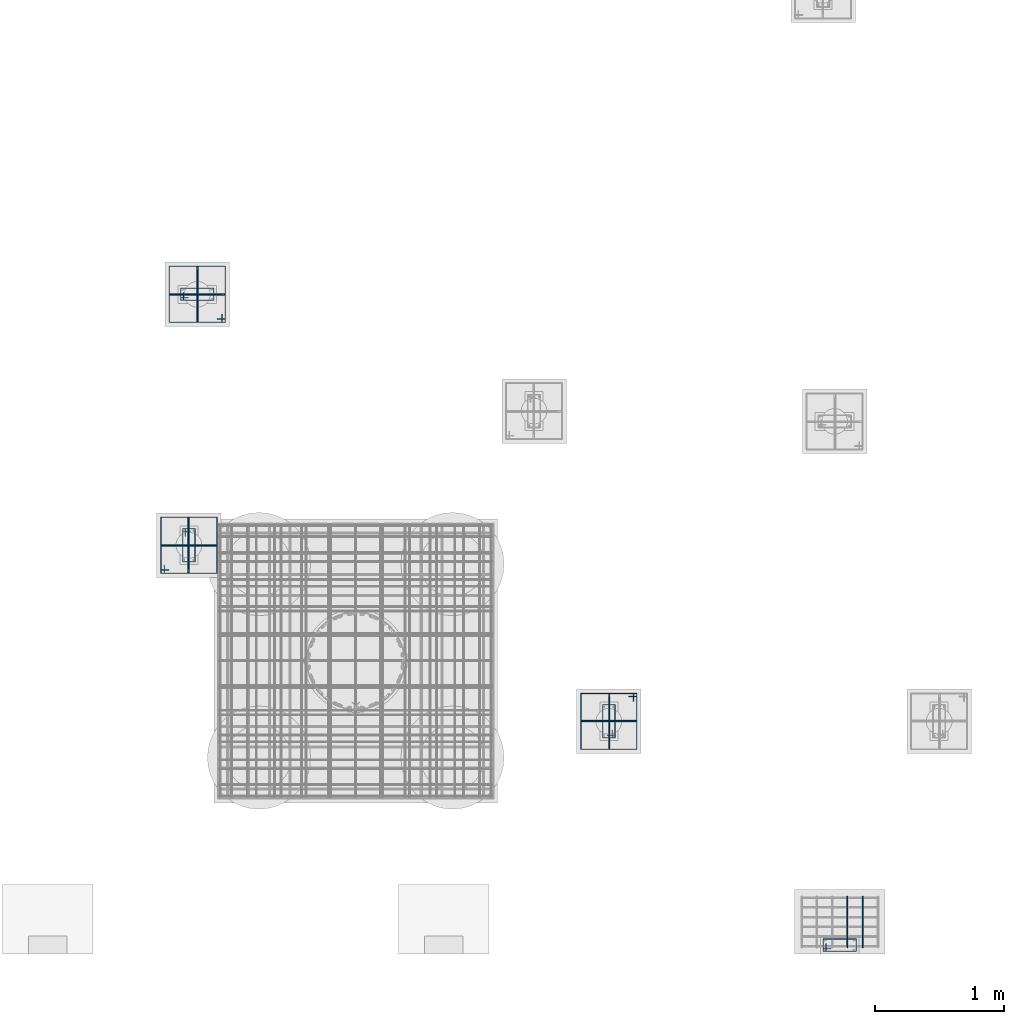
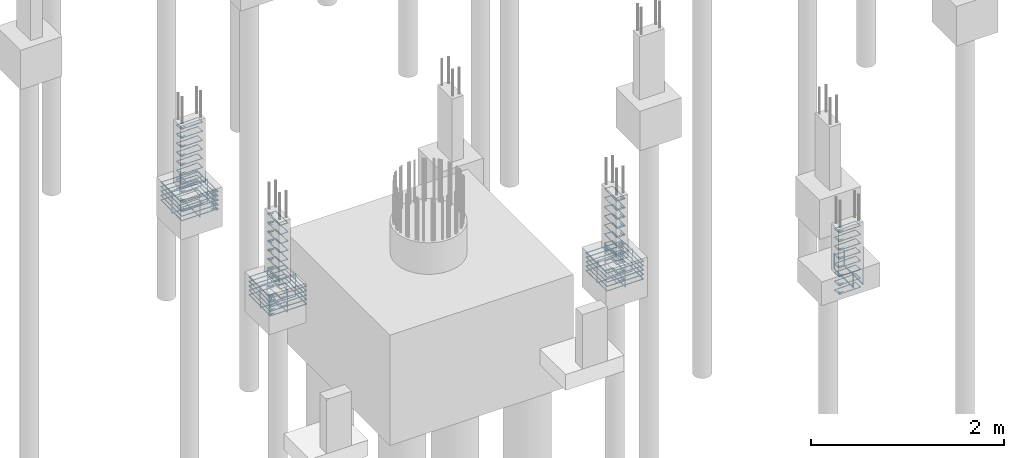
# One storey, part 77 of 119: 61 reinforcing bars.
"""IFC4 building model written with IfcOpenShell, lengths in centimetres."""

from ifc_helpers import new_model, entity, si_unit, derived_unit, frame, origin_with_axes, place, context, project, spatial, source, transform, mapped, element, save


model = new_model("IFC4")

# Units and contexts
model_context = context("Model", 3, precision=1e-05, world=origin_with_axes(), identifier="Body")
ifc_project = project(units=[si_unit("LENGTHUNIT", "METRE", prefix="CENTI"), si_unit("VOLUMEUNIT", "CUBIC_METRE"), si_unit("AREAUNIT", "SQUARE_METRE"), si_unit("POWERUNIT", "WATT"), si_unit("LUMINOUSFLUXUNIT", "LUMEN"), si_unit("ELECTRICCURRENTUNIT", "AMPERE"), si_unit("PRESSUREUNIT", "PASCAL", prefix="KILO"), si_unit("MASSUNIT", "GRAM", prefix="KILO"), si_unit("PLANEANGLEUNIT", "RADIAN"), derived_unit("VOLUMETRICFLOWRATEUNIT", [(si_unit("LENGTHUNIT", "METRE"), 3), (si_unit("TIMEUNIT", "SECOND"), -1)])], contexts=[model_context])

# Site, building, storey
site_placement = place(None, frame((-4000.0, 0.0, 0.0), z_axis=(0.0, 0.0, 1.0), x_axis=(1.0, 0.0, 0.0)))
site = spatial("IfcSite", under=ifc_project, at=site_placement, Name="PADRÃO")
building_placement = place(site_placement, frame((0.0, 0.0, -14.0)))
building = spatial("IfcBuilding", under=site, at=building_placement, Name="CRECHE PRÉ-ESCOLA TIPO 2")
storey_placement = place(building_placement, origin_with_axes())
storey = spatial("IfcBuildingStorey", under=building, at=storey_placement, Name="FUNDAÇÃO", CompositionType="ELEMENT", Elevation=-14.0)

# Reinforcing bars
shared_shape_1 = source(origin_with_axes(), model_context, "Body", "AdvancedSweptSolid", [
    entity("IfcSweptDiskSolid", entity("IfcCompositeCurve", [entity("IfcCompositeCurveSegment", "CONTINUOUS", True, entity("IfcPolyline", [entity("IfcCartesianPoint", [4.25, 21.75, 0.0]), entity("IfcCartesianPoint", [4.25, 27.75, 0.0])])), entity("IfcCompositeCurveSegment", "CONTINUOUS", True, entity("IfcPolyline", [entity("IfcCartesianPoint", [4.25, 27.75, 0.0]), entity("IfcCartesianPoint", [2.25, 27.75, 0.0])])), entity("IfcCompositeCurveSegment", "CONTINUOUS", True, entity("IfcPolyline", [entity("IfcCartesianPoint", [2.25, 27.75, 0.0]), entity("IfcCartesianPoint", [2.25, 2.25, 0.0])])), entity("IfcCompositeCurveSegment", "CONTINUOUS", True, entity("IfcPolyline", [entity("IfcCartesianPoint", [2.25, 2.25, 0.0]), entity("IfcCartesianPoint", [11.75, 2.25, 0.0])])), entity("IfcCompositeCurveSegment", "CONTINUOUS", True, entity("IfcPolyline", [entity("IfcCartesianPoint", [11.75, 2.25, 0.0]), entity("IfcCartesianPoint", [11.75, 27.75, -0.5])])), entity("IfcCompositeCurveSegment", "CONTINUOUS", True, entity("IfcPolyline", [entity("IfcCartesianPoint", [11.75, 27.75, -0.5]), entity("IfcCartesianPoint", [2.25, 27.75, -0.5])])), entity("IfcCompositeCurveSegment", "CONTINUOUS", True, entity("IfcPolyline", [entity("IfcCartesianPoint", [2.25, 27.75, -0.5]), entity("IfcCartesianPoint", [2.25, 25.75, -0.5])])), entity("IfcCompositeCurveSegment", "CONTINUOUS", True, entity("IfcPolyline", [entity("IfcCartesianPoint", [2.25, 25.75, -0.5]), entity("IfcCartesianPoint", [8.25, 25.75, -0.5])]))], False), 0.25),
])
for number, where, z_axis, x_axis, name in (
    (1, (2775.5, 2.0, -61.1875), (0.0, 0.0, 1.0), (0.0, 1.0, 0.0), "P164 - Estribo"),
    (2, (2775.5, 2.0, -50.0625), (0.0, 0.0, 1.0), (0.0, 1.0, 0.0), "P164 - Estribo"),
    (3, (2775.5, 2.0, -38.9375), (0.0, 0.0, 1.0), (0.0, 1.0, 0.0), "P164 - Estribo"),
    (4, (2775.5, 2.0, -27.8125), (0.0, 0.0, 1.0), (0.0, 1.0, 0.0), "P164 - Estribo"),
    (5, (2775.5, 2.0, -16.6875), (0.0, 0.0, 1.0), (0.0, 1.0, 0.0), "P164 - Estribo"),
    (6, (2775.5, 2.0, -5.5625), (0.0, 0.0, 1.0), (0.0, 1.0, 0.0), "P164 - Estribo"),
    (7, (2775.5, 2.0, -83.4375), (0.0, 0.0, 1.0), (0.0, 1.0, 0.0), "P164 - Estribo"),
    (8, (2775.5, 2.0, -72.3125), (0.0, 0.0, 1.0), (0.0, 1.0, 0.0), "P164 - Estribo"),
):
    element("IfcReinforcingBar", number, at=place(storey_placement, frame(where, z_axis=z_axis, x_axis=x_axis)), inside=storey, Name=name, BarLength=0.0, CrossSectionArea=1.9634954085e-05, NominalDiameter=0.5, PredefinedType="MAIN", context=model_context, shape_type="MappedRepresentation", body=[
        mapped(shared_shape_1, transform((0.0, 0.0, 0.0), scale=1.0)),
    ])
shared_shape_2 = source(origin_with_axes(), model_context, "Body", "AdvancedSweptSolid", [
    entity("IfcSweptDiskSolid", entity("IfcCompositeCurve", [entity("IfcCompositeCurveSegment", "CONTINUOUS", True, entity("IfcPolyline", [entity("IfcCartesianPoint", [0.0, 0.0, 19.6]), entity("IfcCartesianPoint", [0.0, 0.0, 0.0])])), entity("IfcCompositeCurveSegment", "CONTINUOUS", True, entity("IfcPolyline", [entity("IfcCartesianPoint", [0.0, 0.0, 0.0]), entity("IfcCartesianPoint", [39.2, 0.0, 0.0])])), entity("IfcCompositeCurveSegment", "CONTINUOUS", True, entity("IfcPolyline", [entity("IfcCartesianPoint", [39.2, 0.0, 0.0]), entity("IfcCartesianPoint", [39.2, 0.0, 19.6])]))], False), 0.4),
])
for number, where, z_axis, x_axis, name in (
    (9, (2766.42, 7.4, -83.6), (0.0, 0.0, 1.0), (0.0, 1.0, 0.0), "P164 - Sapatas (inferior)"),
    (10, (2778.26, 7.4, -83.6), (0.0, 0.0, 1.0), (0.0, 1.0, 0.0), "P164 - Sapatas (inferior)"),
):
    element("IfcReinforcingBar", number, at=place(storey_placement, frame(where, z_axis=z_axis, x_axis=x_axis)), inside=storey, Name=name, BarLength=0.0, CrossSectionArea=5.0265482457e-05, NominalDiameter=0.8, PredefinedType="MAIN", context=model_context, shape_type="MappedRepresentation", body=[
        mapped(shared_shape_2, transform((0.0, 0.0, 0.0), scale=1.0)),
    ])
shared_shape_3 = source(origin_with_axes(), model_context, "Body", "AdvancedSweptSolid", [
    entity("IfcSweptDiskSolid", entity("IfcCompositeCurve", [entity("IfcCompositeCurveSegment", "CONTINUOUS", True, entity("IfcPolyline", [entity("IfcCartesianPoint", [4.25, 21.75, 0.0]), entity("IfcCartesianPoint", [4.25, 27.75, 0.0])])), entity("IfcCompositeCurveSegment", "CONTINUOUS", True, entity("IfcPolyline", [entity("IfcCartesianPoint", [4.25, 27.75, 0.0]), entity("IfcCartesianPoint", [2.25, 27.75, 0.0])])), entity("IfcCompositeCurveSegment", "CONTINUOUS", True, entity("IfcPolyline", [entity("IfcCartesianPoint", [2.25, 27.75, 0.0]), entity("IfcCartesianPoint", [2.25, 2.25, 0.0])])), entity("IfcCompositeCurveSegment", "CONTINUOUS", True, entity("IfcPolyline", [entity("IfcCartesianPoint", [2.25, 2.25, 0.0]), entity("IfcCartesianPoint", [11.75, 2.25, 0.0])])), entity("IfcCompositeCurveSegment", "CONTINUOUS", True, entity("IfcPolyline", [entity("IfcCartesianPoint", [11.75, 2.25, 0.0]), entity("IfcCartesianPoint", [11.75, 27.75, -0.5])])), entity("IfcCompositeCurveSegment", "CONTINUOUS", True, entity("IfcPolyline", [entity("IfcCartesianPoint", [11.75, 27.75, -0.5]), entity("IfcCartesianPoint", [2.25, 27.75, -0.5])])), entity("IfcCompositeCurveSegment", "CONTINUOUS", True, entity("IfcPolyline", [entity("IfcCartesianPoint", [2.25, 27.75, -0.5]), entity("IfcCartesianPoint", [2.25, 25.75, -0.5])])), entity("IfcCompositeCurveSegment", "CONTINUOUS", True, entity("IfcPolyline", [entity("IfcCartesianPoint", [2.25, 25.75, -0.5]), entity("IfcCartesianPoint", [8.25, 25.75, -0.5])]))], False), 0.25),
])
for number, where, z_axis, x_axis, name in (
    (11, (2248.98, 304.02, -17.25), (0.0, 0.0, 1.0), (1.0, 0.0, 0.0), "P150 - Estribo"),
    (12, (2248.98, 304.02, -74.75), (0.0, 0.0, 1.0), (1.0, 0.0, 0.0), "P150 - Estribo"),
    (13, (2248.98, 304.02, -109.25), (0.0, 0.0, 1.0), (1.0, 0.0, 0.0), "P150 - Estribo"),
    (14, (2248.98, 304.02, -86.25), (0.0, 0.0, 1.0), (1.0, 0.0, 0.0), "P150 - Estribo"),
    (15, (2248.98, 304.02, -5.75), (0.0, 0.0, 1.0), (1.0, 0.0, 0.0), "P150 - Estribo"),
    (16, (2248.98, 304.02, -63.25), (0.0, 0.0, 1.0), (1.0, 0.0, 0.0), "P150 - Estribo"),
    (17, (2248.98, 304.02, -51.75), (0.0, 0.0, 1.0), (1.0, 0.0, 0.0), "P150 - Estribo"),
    (18, (2248.98, 304.02, -40.25), (0.0, 0.0, 1.0), (1.0, 0.0, 0.0), "P150 - Estribo"),
    (19, (2248.98, 304.02, -28.75), (0.0, 0.0, 1.0), (1.0, 0.0, 0.0), "P150 - Estribo"),
    (20, (2248.98, 304.02, -97.75), (0.0, 0.0, 1.0), (1.0, 0.0, 0.0), "P150 - Estribo"),
):
    element("IfcReinforcingBar", number, at=place(storey_placement, frame(where, z_axis=z_axis, x_axis=x_axis)), inside=storey, Name=name, BarLength=0.0, CrossSectionArea=1.9634954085e-05, NominalDiameter=0.5, PredefinedType="MAIN", context=model_context, shape_type="MappedRepresentation", body=[
        mapped(shared_shape_3, transform((0.0, 0.0, 0.0), scale=1.0)),
    ])
shared_shape_4 = source(origin_with_axes(), model_context, "Body", "AdvancedSweptSolid", [
    entity("IfcSweptDiskSolid", entity("IfcCompositeCurve", [entity("IfcCompositeCurveSegment", "CONTINUOUS", True, entity("IfcPolyline", [entity("IfcCartesianPoint", [2240.555, 299.855, 0.0]), entity("IfcCartesianPoint", [2234.295, 299.855, 0.0])])), entity("IfcCompositeCurveSegment", "CONTINUOUS", True, entity("IfcPolyline", [entity("IfcCartesianPoint", [2234.295, 299.855, 0.0]), entity("IfcCartesianPoint", [2234.295, 297.335, 0.0])])), entity("IfcCompositeCurveSegment", "CONTINUOUS", True, entity("IfcPolyline", [entity("IfcCartesianPoint", [2234.295, 297.335, 0.0]), entity("IfcCartesianPoint", [2277.665, 297.335, 0.0])])), entity("IfcCompositeCurveSegment", "CONTINUOUS", True, entity("IfcPolyline", [entity("IfcCartesianPoint", [2277.665, 297.335, 0.0]), entity("IfcCartesianPoint", [2277.665, 340.705, 0.63])])), entity("IfcCompositeCurveSegment", "CONTINUOUS", True, entity("IfcPolyline", [entity("IfcCartesianPoint", [2277.665, 340.705, 0.63]), entity("IfcCartesianPoint", [2234.295, 340.705, 0.63])])), entity("IfcCompositeCurveSegment", "CONTINUOUS", True, entity("IfcPolyline", [entity("IfcCartesianPoint", [2234.295, 340.705, 0.63]), entity("IfcCartesianPoint", [2234.295, 297.335, 0.63])])), entity("IfcCompositeCurveSegment", "CONTINUOUS", True, entity("IfcPolyline", [entity("IfcCartesianPoint", [2234.295, 297.335, 0.63]), entity("IfcCartesianPoint", [2236.815, 297.335, 0.63])])), entity("IfcCompositeCurveSegment", "CONTINUOUS", True, entity("IfcPolyline", [entity("IfcCartesianPoint", [2236.815, 297.335, 0.63]), entity("IfcCartesianPoint", [2236.815, 303.595, 0.63])]))], False), 0.315),
])
for number, where, z_axis, x_axis, name in (
    (21, (0.0, 0.0, -92.225), (0.0, 0.0, 1.0), (1.0, 0.0, 0.0), "P150 - Blocos (estribos)"),
    (22, (0.0, 0.0, -86.575), (0.0, 0.0, 1.0), (1.0, 0.0, 0.0), "P150 - Blocos (estribos)"),
    (23, (0.0, 0.0, -109.175), (0.0, 0.0, 1.0), (1.0, 0.0, 0.0), "P150 - Blocos (estribos)"),
    (24, (0.0, 0.0, -103.525), (0.0, 0.0, 1.0), (1.0, 0.0, 0.0), "P150 - Blocos (estribos)"),
    (25, (0.0, 0.0, -97.875), (0.0, 0.0, 1.0), (1.0, 0.0, 0.0), "P150 - Blocos (estribos)"),
):
    element("IfcReinforcingBar", number, at=place(storey_placement, frame(where, z_axis=z_axis, x_axis=x_axis)), inside=storey, Name=name, BarLength=0.0, CrossSectionArea=3.1172453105e-05, NominalDiameter=0.63, PredefinedType="MAIN", context=model_context, shape_type="MappedRepresentation", body=[
        mapped(shared_shape_4, transform((0.0, 0.0, 0.0), scale=1.0)),
    ])
shared_shape_5 = source(origin_with_axes(), model_context, "Body", "AdvancedSweptSolid", [
    entity("IfcSweptDiskSolid", entity("IfcCompositeCurve", [entity("IfcCompositeCurveSegment", "CONTINUOUS", True, entity("IfcPolyline", [entity("IfcCartesianPoint", [-15.12, -12.0, 0.0]), entity("IfcCartesianPoint", [-21.12, -12.0, 0.0])])), entity("IfcCompositeCurveSegment", "CONTINUOUS", True, entity("IfcPolyline", [entity("IfcCartesianPoint", [-21.12, -12.0, 0.0]), entity("IfcCartesianPoint", [-21.12, -14.0, 0.0])])), entity("IfcCompositeCurveSegment", "CONTINUOUS", True, entity("IfcPolyline", [entity("IfcCartesianPoint", [-21.12, -14.0, 0.0]), entity("IfcCartesianPoint", [21.12, -14.0, 0.0])])), entity("IfcCompositeCurveSegment", "CONTINUOUS", True, entity("IfcPolyline", [entity("IfcCartesianPoint", [21.12, -14.0, 0.0]), entity("IfcCartesianPoint", [21.12, 14.0, 0.5])])), entity("IfcCompositeCurveSegment", "CONTINUOUS", True, entity("IfcPolyline", [entity("IfcCartesianPoint", [21.12, 14.0, 0.5]), entity("IfcCartesianPoint", [-21.12, 14.0, 0.5])])), entity("IfcCompositeCurveSegment", "CONTINUOUS", True, entity("IfcPolyline", [entity("IfcCartesianPoint", [-21.12, 14.0, 0.5]), entity("IfcCartesianPoint", [-21.12, -14.0, 0.5])])), entity("IfcCompositeCurveSegment", "CONTINUOUS", True, entity("IfcPolyline", [entity("IfcCartesianPoint", [-21.12, -14.0, 0.5]), entity("IfcCartesianPoint", [-19.12, -14.0, 0.5])])), entity("IfcCompositeCurveSegment", "CONTINUOUS", True, entity("IfcPolyline", [entity("IfcCartesianPoint", [-19.12, -14.0, 0.5]), entity("IfcCartesianPoint", [-19.12, -8.0, 0.5])]))], False), 0.25),
])
reinforcing_bar_1_placement = place(storey_placement, frame((2255.98, 319.02, -97.75), z_axis=(-1.0, 0.0, 0.0), x_axis=(0.0, 1.0, 0.0)))
element("IfcReinforcingBar", 26, at=reinforcing_bar_1_placement, inside=storey, Name="P150 - Blocos (estribos)", BarLength=0.0, CrossSectionArea=1.9634954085e-05, NominalDiameter=0.5, PredefinedType="MAIN", context=model_context, shape_type="MappedRepresentation", body=[
    mapped(shared_shape_5, transform((0.0, 0.0, 0.0), scale=1.0)),
])
shared_shape_6 = source(origin_with_axes(), model_context, "Body", "AdvancedSweptSolid", [
    entity("IfcSweptDiskSolid", entity("IfcCompositeCurve", [entity("IfcCompositeCurveSegment", "CONTINUOUS", True, entity("IfcPolyline", [entity("IfcCartesianPoint", [-15.12, -12.0, 0.0]), entity("IfcCartesianPoint", [-21.12, -12.0, 0.0])])), entity("IfcCompositeCurveSegment", "CONTINUOUS", True, entity("IfcPolyline", [entity("IfcCartesianPoint", [-21.12, -12.0, 0.0]), entity("IfcCartesianPoint", [-21.12, -14.0, 0.0])])), entity("IfcCompositeCurveSegment", "CONTINUOUS", True, entity("IfcPolyline", [entity("IfcCartesianPoint", [-21.12, -14.0, 0.0]), entity("IfcCartesianPoint", [21.12, -14.0, 0.0])])), entity("IfcCompositeCurveSegment", "CONTINUOUS", True, entity("IfcPolyline", [entity("IfcCartesianPoint", [21.12, -14.0, 0.0]), entity("IfcCartesianPoint", [21.12, 14.0, 0.5])])), entity("IfcCompositeCurveSegment", "CONTINUOUS", True, entity("IfcPolyline", [entity("IfcCartesianPoint", [21.12, 14.0, 0.5]), entity("IfcCartesianPoint", [-21.12, 14.0, 0.5])])), entity("IfcCompositeCurveSegment", "CONTINUOUS", True, entity("IfcPolyline", [entity("IfcCartesianPoint", [-21.12, 14.0, 0.5]), entity("IfcCartesianPoint", [-21.12, -14.0, 0.5])])), entity("IfcCompositeCurveSegment", "CONTINUOUS", True, entity("IfcPolyline", [entity("IfcCartesianPoint", [-21.12, -14.0, 0.5]), entity("IfcCartesianPoint", [-19.12, -14.0, 0.5])])), entity("IfcCompositeCurveSegment", "CONTINUOUS", True, entity("IfcPolyline", [entity("IfcCartesianPoint", [-19.12, -14.0, 0.5]), entity("IfcCartesianPoint", [-19.12, -8.0, 0.5])]))], False), 0.25),
])
reinforcing_bar_2_placement = place(storey_placement, frame((2255.98, 319.02, -97.75), z_axis=(0.0, -1.0, 0.0), x_axis=(-1.0, 0.0, 0.0)))
element("IfcReinforcingBar", 27, at=reinforcing_bar_2_placement, inside=storey, Name="P150 - Blocos (estribos)", BarLength=0.0, CrossSectionArea=1.9634954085e-05, NominalDiameter=0.5, PredefinedType="MAIN", context=model_context, shape_type="MappedRepresentation", body=[
    mapped(shared_shape_6, transform((0.0, 0.0, 0.0), scale=1.0)),
])
shared_shape_7 = source(origin_with_axes(), model_context, "Body", "AdvancedSweptSolid", [
    entity("IfcSweptDiskSolid", entity("IfcCompositeCurve", [entity("IfcCompositeCurveSegment", "CONTINUOUS", True, entity("IfcPolyline", [entity("IfcCartesianPoint", [4.25, 21.75, 0.0]), entity("IfcCartesianPoint", [4.25, 27.75, 0.0])])), entity("IfcCompositeCurveSegment", "CONTINUOUS", True, entity("IfcPolyline", [entity("IfcCartesianPoint", [4.25, 27.75, 0.0]), entity("IfcCartesianPoint", [2.25, 27.75, 0.0])])), entity("IfcCompositeCurveSegment", "CONTINUOUS", True, entity("IfcPolyline", [entity("IfcCartesianPoint", [2.25, 27.75, 0.0]), entity("IfcCartesianPoint", [2.25, 2.25, 0.0])])), entity("IfcCompositeCurveSegment", "CONTINUOUS", True, entity("IfcPolyline", [entity("IfcCartesianPoint", [2.25, 2.25, 0.0]), entity("IfcCartesianPoint", [11.75, 2.25, 0.0])])), entity("IfcCompositeCurveSegment", "CONTINUOUS", True, entity("IfcPolyline", [entity("IfcCartesianPoint", [11.75, 2.25, 0.0]), entity("IfcCartesianPoint", [11.75, 27.75, -0.5])])), entity("IfcCompositeCurveSegment", "CONTINUOUS", True, entity("IfcPolyline", [entity("IfcCartesianPoint", [11.75, 27.75, -0.5]), entity("IfcCartesianPoint", [2.25, 27.75, -0.5])])), entity("IfcCompositeCurveSegment", "CONTINUOUS", True, entity("IfcPolyline", [entity("IfcCartesianPoint", [2.25, 27.75, -0.5]), entity("IfcCartesianPoint", [2.25, 25.75, -0.5])])), entity("IfcCompositeCurveSegment", "CONTINUOUS", True, entity("IfcPolyline", [entity("IfcCartesianPoint", [2.25, 25.75, -0.5]), entity("IfcCartesianPoint", [8.25, 25.75, -0.5])]))], False), 0.25),
])
for number, where, z_axis, x_axis, name in (
    (28, (2277.48, 506.52, -63.25), (0.0, 0.0, 1.0), (0.0, 1.0, 0.0), "P139 - Estribo"),
    (29, (2277.48, 506.52, -74.75), (0.0, 0.0, 1.0), (0.0, 1.0, 0.0), "P139 - Estribo"),
    (30, (2277.48, 506.52, -86.25), (0.0, 0.0, 1.0), (0.0, 1.0, 0.0), "P139 - Estribo"),
    (31, (2277.48, 506.52, -28.75), (0.0, 0.0, 1.0), (0.0, 1.0, 0.0), "P139 - Estribo"),
    (32, (2277.48, 506.52, -40.25), (0.0, 0.0, 1.0), (0.0, 1.0, 0.0), "P139 - Estribo"),
    (33, (2277.48, 506.52, -17.25), (0.0, 0.0, 1.0), (0.0, 1.0, 0.0), "P139 - Estribo"),
    (34, (2277.48, 506.52, -97.75), (0.0, 0.0, 1.0), (0.0, 1.0, 0.0), "P139 - Estribo"),
    (35, (2277.48, 506.52, -109.25), (0.0, 0.0, 1.0), (0.0, 1.0, 0.0), "P139 - Estribo"),
    (36, (2277.48, 506.52, -51.75), (0.0, 0.0, 1.0), (0.0, 1.0, 0.0), "P139 - Estribo"),
    (37, (2277.48, 506.52, -5.75), (0.0, 0.0, 1.0), (0.0, 1.0, 0.0), "P139 - Estribo"),
):
    element("IfcReinforcingBar", number, at=place(storey_placement, frame(where, z_axis=z_axis, x_axis=x_axis)), inside=storey, Name=name, BarLength=0.0, CrossSectionArea=1.9634954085e-05, NominalDiameter=0.5, PredefinedType="MAIN", context=model_context, shape_type="MappedRepresentation", body=[
        mapped(shared_shape_7, transform((0.0, 0.0, 0.0), scale=1.0)),
    ])
shared_shape_8 = source(origin_with_axes(), model_context, "Body", "AdvancedSweptSolid", [
    entity("IfcSweptDiskSolid", entity("IfcCompositeCurve", [entity("IfcCompositeCurveSegment", "CONTINUOUS", True, entity("IfcPolyline", [entity("IfcCartesianPoint", [2281.645, 498.095, 0.0]), entity("IfcCartesianPoint", [2281.645, 491.835, 0.0])])), entity("IfcCompositeCurveSegment", "CONTINUOUS", True, entity("IfcPolyline", [entity("IfcCartesianPoint", [2281.645, 491.835, 0.0]), entity("IfcCartesianPoint", [2284.165, 491.835, 0.0])])), entity("IfcCompositeCurveSegment", "CONTINUOUS", True, entity("IfcPolyline", [entity("IfcCartesianPoint", [2284.165, 491.835, 0.0]), entity("IfcCartesianPoint", [2284.165, 535.205, 0.0])])), entity("IfcCompositeCurveSegment", "CONTINUOUS", True, entity("IfcPolyline", [entity("IfcCartesianPoint", [2284.165, 535.205, 0.0]), entity("IfcCartesianPoint", [2240.795, 535.205, 0.63])])), entity("IfcCompositeCurveSegment", "CONTINUOUS", True, entity("IfcPolyline", [entity("IfcCartesianPoint", [2240.795, 535.205, 0.63]), entity("IfcCartesianPoint", [2240.795, 491.835, 0.63])])), entity("IfcCompositeCurveSegment", "CONTINUOUS", True, entity("IfcPolyline", [entity("IfcCartesianPoint", [2240.795, 491.835, 0.63]), entity("IfcCartesianPoint", [2284.165, 491.835, 0.63])])), entity("IfcCompositeCurveSegment", "CONTINUOUS", True, entity("IfcPolyline", [entity("IfcCartesianPoint", [2284.165, 491.835, 0.63]), entity("IfcCartesianPoint", [2284.165, 494.355, 0.63])])), entity("IfcCompositeCurveSegment", "CONTINUOUS", True, entity("IfcPolyline", [entity("IfcCartesianPoint", [2284.165, 494.355, 0.63]), entity("IfcCartesianPoint", [2277.905, 494.355, 0.63])]))], False), 0.315),
])
for number, where, z_axis, x_axis, name in (
    (38, (0.0, 0.0, -86.575), (0.0, 0.0, 1.0), (1.0, 0.0, 0.0), "P139 - Blocos (estribos)"),
    (39, (0.0, 0.0, -92.225), (0.0, 0.0, 1.0), (1.0, 0.0, 0.0), "P139 - Blocos (estribos)"),
    (40, (0.0, 0.0, -97.875), (0.0, 0.0, 1.0), (1.0, 0.0, 0.0), "P139 - Blocos (estribos)"),
    (41, (0.0, 0.0, -103.525), (0.0, 0.0, 1.0), (1.0, 0.0, 0.0), "P139 - Blocos (estribos)"),
    (42, (0.0, 0.0, -109.175), (0.0, 0.0, 1.0), (1.0, 0.0, 0.0), "P139 - Blocos (estribos)"),
):
    element("IfcReinforcingBar", number, at=place(storey_placement, frame(where, z_axis=z_axis, x_axis=x_axis)), inside=storey, Name=name, BarLength=0.0, CrossSectionArea=3.1172453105e-05, NominalDiameter=0.63, PredefinedType="MAIN", context=model_context, shape_type="MappedRepresentation", body=[
        mapped(shared_shape_8, transform((0.0, 0.0, 0.0), scale=1.0)),
    ])
shared_shape_9 = source(origin_with_axes(), model_context, "Body", "AdvancedSweptSolid", [
    entity("IfcSweptDiskSolid", entity("IfcCompositeCurve", [entity("IfcCompositeCurveSegment", "CONTINUOUS", True, entity("IfcPolyline", [entity("IfcCartesianPoint", [-15.12, -12.0, 0.0]), entity("IfcCartesianPoint", [-21.12, -12.0, 0.0])])), entity("IfcCompositeCurveSegment", "CONTINUOUS", True, entity("IfcPolyline", [entity("IfcCartesianPoint", [-21.12, -12.0, 0.0]), entity("IfcCartesianPoint", [-21.12, -14.0, 0.0])])), entity("IfcCompositeCurveSegment", "CONTINUOUS", True, entity("IfcPolyline", [entity("IfcCartesianPoint", [-21.12, -14.0, 0.0]), entity("IfcCartesianPoint", [21.12, -14.0, 0.0])])), entity("IfcCompositeCurveSegment", "CONTINUOUS", True, entity("IfcPolyline", [entity("IfcCartesianPoint", [21.12, -14.0, 0.0]), entity("IfcCartesianPoint", [21.12, 14.0, 0.5])])), entity("IfcCompositeCurveSegment", "CONTINUOUS", True, entity("IfcPolyline", [entity("IfcCartesianPoint", [21.12, 14.0, 0.5]), entity("IfcCartesianPoint", [-21.12, 14.0, 0.5])])), entity("IfcCompositeCurveSegment", "CONTINUOUS", True, entity("IfcPolyline", [entity("IfcCartesianPoint", [-21.12, 14.0, 0.5]), entity("IfcCartesianPoint", [-21.12, -14.0, 0.5])])), entity("IfcCompositeCurveSegment", "CONTINUOUS", True, entity("IfcPolyline", [entity("IfcCartesianPoint", [-21.12, -14.0, 0.5]), entity("IfcCartesianPoint", [-19.12, -14.0, 0.5])])), entity("IfcCompositeCurveSegment", "CONTINUOUS", True, entity("IfcPolyline", [entity("IfcCartesianPoint", [-19.12, -14.0, 0.5]), entity("IfcCartesianPoint", [-19.12, -8.0, 0.5])]))], False), 0.25),
])
reinforcing_bar_3_placement = place(storey_placement, frame((2262.48, 513.52, -97.75), z_axis=(0.0, -1.0, 0.0), x_axis=(-1.0, 0.0, 0.0)))
element("IfcReinforcingBar", 43, at=reinforcing_bar_3_placement, inside=storey, Name="P139 - Blocos (estribos)", BarLength=0.0, CrossSectionArea=1.9634954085e-05, NominalDiameter=0.5, PredefinedType="MAIN", context=model_context, shape_type="MappedRepresentation", body=[
    mapped(shared_shape_9, transform((0.0, 0.0, 0.0), scale=1.0)),
])
shared_shape_10 = source(origin_with_axes(), model_context, "Body", "AdvancedSweptSolid", [
    entity("IfcSweptDiskSolid", entity("IfcCompositeCurve", [entity("IfcCompositeCurveSegment", "CONTINUOUS", True, entity("IfcPolyline", [entity("IfcCartesianPoint", [-15.12, -12.0, 0.0]), entity("IfcCartesianPoint", [-21.12, -12.0, 0.0])])), entity("IfcCompositeCurveSegment", "CONTINUOUS", True, entity("IfcPolyline", [entity("IfcCartesianPoint", [-21.12, -12.0, 0.0]), entity("IfcCartesianPoint", [-21.12, -14.0, 0.0])])), entity("IfcCompositeCurveSegment", "CONTINUOUS", True, entity("IfcPolyline", [entity("IfcCartesianPoint", [-21.12, -14.0, 0.0]), entity("IfcCartesianPoint", [21.12, -14.0, 0.0])])), entity("IfcCompositeCurveSegment", "CONTINUOUS", True, entity("IfcPolyline", [entity("IfcCartesianPoint", [21.12, -14.0, 0.0]), entity("IfcCartesianPoint", [21.12, 14.0, 0.5])])), entity("IfcCompositeCurveSegment", "CONTINUOUS", True, entity("IfcPolyline", [entity("IfcCartesianPoint", [21.12, 14.0, 0.5]), entity("IfcCartesianPoint", [-21.12, 14.0, 0.5])])), entity("IfcCompositeCurveSegment", "CONTINUOUS", True, entity("IfcPolyline", [entity("IfcCartesianPoint", [-21.12, 14.0, 0.5]), entity("IfcCartesianPoint", [-21.12, -14.0, 0.5])])), entity("IfcCompositeCurveSegment", "CONTINUOUS", True, entity("IfcPolyline", [entity("IfcCartesianPoint", [-21.12, -14.0, 0.5]), entity("IfcCartesianPoint", [-19.12, -14.0, 0.5])])), entity("IfcCompositeCurveSegment", "CONTINUOUS", True, entity("IfcPolyline", [entity("IfcCartesianPoint", [-19.12, -14.0, 0.5]), entity("IfcCartesianPoint", [-19.12, -8.0, 0.5])]))], False), 0.25),
])
reinforcing_bar_4_placement = place(storey_placement, frame((2262.48, 513.52, -97.75), z_axis=(1.0, 0.0, 0.0), x_axis=(0.0, -1.0, 0.0)))
element("IfcReinforcingBar", 44, at=reinforcing_bar_4_placement, inside=storey, Name="P139 - Blocos (estribos)", BarLength=0.0, CrossSectionArea=1.9634954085e-05, NominalDiameter=0.5, PredefinedType="MAIN", context=model_context, shape_type="MappedRepresentation", body=[
    mapped(shared_shape_10, transform((0.0, 0.0, 0.0), scale=1.0)),
])
shared_shape_11 = source(origin_with_axes(), model_context, "Body", "AdvancedSweptSolid", [
    entity("IfcSweptDiskSolid", entity("IfcCompositeCurve", [entity("IfcCompositeCurveSegment", "CONTINUOUS", True, entity("IfcPolyline", [entity("IfcCartesianPoint", [4.25, 21.75, 0.0]), entity("IfcCartesianPoint", [4.25, 27.75, 0.0])])), entity("IfcCompositeCurveSegment", "CONTINUOUS", True, entity("IfcPolyline", [entity("IfcCartesianPoint", [4.25, 27.75, 0.0]), entity("IfcCartesianPoint", [2.25, 27.75, 0.0])])), entity("IfcCompositeCurveSegment", "CONTINUOUS", True, entity("IfcPolyline", [entity("IfcCartesianPoint", [2.25, 27.75, 0.0]), entity("IfcCartesianPoint", [2.25, 2.25, 0.0])])), entity("IfcCompositeCurveSegment", "CONTINUOUS", True, entity("IfcPolyline", [entity("IfcCartesianPoint", [2.25, 2.25, 0.0]), entity("IfcCartesianPoint", [11.75, 2.25, 0.0])])), entity("IfcCompositeCurveSegment", "CONTINUOUS", True, entity("IfcPolyline", [entity("IfcCartesianPoint", [11.75, 2.25, 0.0]), entity("IfcCartesianPoint", [11.75, 27.75, -0.5])])), entity("IfcCompositeCurveSegment", "CONTINUOUS", True, entity("IfcPolyline", [entity("IfcCartesianPoint", [11.75, 27.75, -0.5]), entity("IfcCartesianPoint", [2.25, 27.75, -0.5])])), entity("IfcCompositeCurveSegment", "CONTINUOUS", True, entity("IfcPolyline", [entity("IfcCartesianPoint", [2.25, 27.75, -0.5]), entity("IfcCartesianPoint", [2.25, 25.75, -0.5])])), entity("IfcCompositeCurveSegment", "CONTINUOUS", True, entity("IfcPolyline", [entity("IfcCartesianPoint", [2.25, 25.75, -0.5]), entity("IfcCartesianPoint", [8.25, 25.75, -0.5])]))], False), 0.25),
])
for number, where, z_axis, x_axis, name in (
    (45, (2588.46, 197.5, -97.75), (0.0, 0.0, 1.0), (-1.0, 0.0, 0.0), "P152 - Estribo"),
    (46, (2588.46, 197.5, -86.25), (0.0, 0.0, 1.0), (-1.0, 0.0, 0.0), "P152 - Estribo"),
    (47, (2588.46, 197.5, -74.75), (0.0, 0.0, 1.0), (-1.0, 0.0, 0.0), "P152 - Estribo"),
    (48, (2588.46, 197.5, -40.25), (0.0, 0.0, 1.0), (-1.0, 0.0, 0.0), "P152 - Estribo"),
    (49, (2588.46, 197.5, -5.75), (0.0, 0.0, 1.0), (-1.0, 0.0, 0.0), "P152 - Estribo"),
    (50, (2588.46, 197.5, -17.25), (0.0, 0.0, 1.0), (-1.0, 0.0, 0.0), "P152 - Estribo"),
    (51, (2588.46, 197.5, -28.75), (0.0, 0.0, 1.0), (-1.0, 0.0, 0.0), "P152 - Estribo"),
    (52, (2588.46, 197.5, -63.25), (0.0, 0.0, 1.0), (-1.0, 0.0, 0.0), "P152 - Estribo"),
    (53, (2588.46, 197.5, -51.75), (0.0, 0.0, 1.0), (-1.0, 0.0, 0.0), "P152 - Estribo"),
    (54, (2588.46, 197.5, -109.25), (0.0, 0.0, 1.0), (-1.0, 0.0, 0.0), "P152 - Estribo"),
):
    element("IfcReinforcingBar", number, at=place(storey_placement, frame(where, z_axis=z_axis, x_axis=x_axis)), inside=storey, Name=name, BarLength=0.0, CrossSectionArea=1.9634954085e-05, NominalDiameter=0.5, PredefinedType="MAIN", context=model_context, shape_type="MappedRepresentation", body=[
        mapped(shared_shape_11, transform((0.0, 0.0, 0.0), scale=1.0)),
    ])
shared_shape_12 = source(origin_with_axes(), model_context, "Body", "AdvancedSweptSolid", [
    entity("IfcSweptDiskSolid", entity("IfcCompositeCurve", [entity("IfcCompositeCurveSegment", "CONTINUOUS", True, entity("IfcPolyline", [entity("IfcCartesianPoint", [2596.885, 201.665, 0.0]), entity("IfcCartesianPoint", [2603.145, 201.665, 0.0])])), entity("IfcCompositeCurveSegment", "CONTINUOUS", True, entity("IfcPolyline", [entity("IfcCartesianPoint", [2603.145, 201.665, 0.0]), entity("IfcCartesianPoint", [2603.145, 204.185, 0.0])])), entity("IfcCompositeCurveSegment", "CONTINUOUS", True, entity("IfcPolyline", [entity("IfcCartesianPoint", [2603.145, 204.185, 0.0]), entity("IfcCartesianPoint", [2559.775, 204.185, 0.0])])), entity("IfcCompositeCurveSegment", "CONTINUOUS", True, entity("IfcPolyline", [entity("IfcCartesianPoint", [2559.775, 204.185, 0.0]), entity("IfcCartesianPoint", [2559.775, 160.815, 0.63])])), entity("IfcCompositeCurveSegment", "CONTINUOUS", True, entity("IfcPolyline", [entity("IfcCartesianPoint", [2559.775, 160.815, 0.63]), entity("IfcCartesianPoint", [2603.145, 160.815, 0.63])])), entity("IfcCompositeCurveSegment", "CONTINUOUS", True, entity("IfcPolyline", [entity("IfcCartesianPoint", [2603.145, 160.815, 0.63]), entity("IfcCartesianPoint", [2603.145, 204.185, 0.63])])), entity("IfcCompositeCurveSegment", "CONTINUOUS", True, entity("IfcPolyline", [entity("IfcCartesianPoint", [2603.145, 204.185, 0.63]), entity("IfcCartesianPoint", [2600.625, 204.185, 0.63])])), entity("IfcCompositeCurveSegment", "CONTINUOUS", True, entity("IfcPolyline", [entity("IfcCartesianPoint", [2600.625, 204.185, 0.63]), entity("IfcCartesianPoint", [2600.625, 197.925, 0.63])]))], False), 0.315),
])
for number, where, z_axis, x_axis, name in (
    (55, (0.0, 0.0, -97.875), (0.0, 0.0, 1.0), (1.0, 0.0, 0.0), "P152 - Blocos (estribos)"),
    (56, (0.0, 0.0, -86.575), (0.0, 0.0, 1.0), (1.0, 0.0, 0.0), "P152 - Blocos (estribos)"),
    (57, (0.0, 0.0, -103.525), (0.0, 0.0, 1.0), (1.0, 0.0, 0.0), "P152 - Blocos (estribos)"),
    (58, (0.0, 0.0, -109.175), (0.0, 0.0, 1.0), (1.0, 0.0, 0.0), "P152 - Blocos (estribos)"),
    (59, (0.0, 0.0, -92.225), (0.0, 0.0, 1.0), (1.0, 0.0, 0.0), "P152 - Blocos (estribos)"),
):
    element("IfcReinforcingBar", number, at=place(storey_placement, frame(where, z_axis=z_axis, x_axis=x_axis)), inside=storey, Name=name, BarLength=0.0, CrossSectionArea=3.1172453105e-05, NominalDiameter=0.63, PredefinedType="MAIN", context=model_context, shape_type="MappedRepresentation", body=[
        mapped(shared_shape_12, transform((0.0, 0.0, 0.0), scale=1.0)),
    ])
shared_shape_13 = source(origin_with_axes(), model_context, "Body", "AdvancedSweptSolid", [
    entity("IfcSweptDiskSolid", entity("IfcCompositeCurve", [entity("IfcCompositeCurveSegment", "CONTINUOUS", True, entity("IfcPolyline", [entity("IfcCartesianPoint", [-15.12, -12.0, 0.0]), entity("IfcCartesianPoint", [-21.12, -12.0, 0.0])])), entity("IfcCompositeCurveSegment", "CONTINUOUS", True, entity("IfcPolyline", [entity("IfcCartesianPoint", [-21.12, -12.0, 0.0]), entity("IfcCartesianPoint", [-21.12, -14.0, 0.0])])), entity("IfcCompositeCurveSegment", "CONTINUOUS", True, entity("IfcPolyline", [entity("IfcCartesianPoint", [-21.12, -14.0, 0.0]), entity("IfcCartesianPoint", [21.12, -14.0, 0.0])])), entity("IfcCompositeCurveSegment", "CONTINUOUS", True, entity("IfcPolyline", [entity("IfcCartesianPoint", [21.12, -14.0, 0.0]), entity("IfcCartesianPoint", [21.12, 14.0, 0.5])])), entity("IfcCompositeCurveSegment", "CONTINUOUS", True, entity("IfcPolyline", [entity("IfcCartesianPoint", [21.12, 14.0, 0.5]), entity("IfcCartesianPoint", [-21.12, 14.0, 0.5])])), entity("IfcCompositeCurveSegment", "CONTINUOUS", True, entity("IfcPolyline", [entity("IfcCartesianPoint", [-21.12, 14.0, 0.5]), entity("IfcCartesianPoint", [-21.12, -14.0, 0.5])])), entity("IfcCompositeCurveSegment", "CONTINUOUS", True, entity("IfcPolyline", [entity("IfcCartesianPoint", [-21.12, -14.0, 0.5]), entity("IfcCartesianPoint", [-19.12, -14.0, 0.5])])), entity("IfcCompositeCurveSegment", "CONTINUOUS", True, entity("IfcPolyline", [entity("IfcCartesianPoint", [-19.12, -14.0, 0.5]), entity("IfcCartesianPoint", [-19.12, -8.0, 0.5])]))], False), 0.25),
])
reinforcing_bar_5_placement = place(storey_placement, frame((2581.46, 182.5, -97.75), z_axis=(1.0, 0.0, 0.0), x_axis=(0.0, -1.0, 0.0)))
element("IfcReinforcingBar", 60, at=reinforcing_bar_5_placement, inside=storey, Name="P152 - Blocos (estribos)", BarLength=0.0, CrossSectionArea=1.9634954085e-05, NominalDiameter=0.5, PredefinedType="MAIN", context=model_context, shape_type="MappedRepresentation", body=[
    mapped(shared_shape_13, transform((0.0, 0.0, 0.0), scale=1.0)),
])
shared_shape_14 = source(origin_with_axes(), model_context, "Body", "AdvancedSweptSolid", [
    entity("IfcSweptDiskSolid", entity("IfcCompositeCurve", [entity("IfcCompositeCurveSegment", "CONTINUOUS", True, entity("IfcPolyline", [entity("IfcCartesianPoint", [-15.12, -12.0, 0.0]), entity("IfcCartesianPoint", [-21.12, -12.0, 0.0])])), entity("IfcCompositeCurveSegment", "CONTINUOUS", True, entity("IfcPolyline", [entity("IfcCartesianPoint", [-21.12, -12.0, 0.0]), entity("IfcCartesianPoint", [-21.12, -14.0, 0.0])])), entity("IfcCompositeCurveSegment", "CONTINUOUS", True, entity("IfcPolyline", [entity("IfcCartesianPoint", [-21.12, -14.0, 0.0]), entity("IfcCartesianPoint", [21.12, -14.0, 0.0])])), entity("IfcCompositeCurveSegment", "CONTINUOUS", True, entity("IfcPolyline", [entity("IfcCartesianPoint", [21.12, -14.0, 0.0]), entity("IfcCartesianPoint", [21.12, 14.0, 0.5])])), entity("IfcCompositeCurveSegment", "CONTINUOUS", True, entity("IfcPolyline", [entity("IfcCartesianPoint", [21.12, 14.0, 0.5]), entity("IfcCartesianPoint", [-21.12, 14.0, 0.5])])), entity("IfcCompositeCurveSegment", "CONTINUOUS", True, entity("IfcPolyline", [entity("IfcCartesianPoint", [-21.12, 14.0, 0.5]), entity("IfcCartesianPoint", [-21.12, -14.0, 0.5])])), entity("IfcCompositeCurveSegment", "CONTINUOUS", True, entity("IfcPolyline", [entity("IfcCartesianPoint", [-21.12, -14.0, 0.5]), entity("IfcCartesianPoint", [-19.12, -14.0, 0.5])])), entity("IfcCompositeCurveSegment", "CONTINUOUS", True, entity("IfcPolyline", [entity("IfcCartesianPoint", [-19.12, -14.0, 0.5]), entity("IfcCartesianPoint", [-19.12, -8.0, 0.5])]))], False), 0.25),
])
reinforcing_bar_6_placement = place(storey_placement, frame((2581.46, 182.5, -97.75), z_axis=(0.0, 1.0, 0.0), x_axis=(1.0, 0.0, 0.0)))
element("IfcReinforcingBar", 61, at=reinforcing_bar_6_placement, inside=storey, Name="P152 - Blocos (estribos)", BarLength=0.0, CrossSectionArea=1.9634954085e-05, NominalDiameter=0.5, PredefinedType="MAIN", context=model_context, shape_type="MappedRepresentation", body=[
    mapped(shared_shape_14, transform((0.0, 0.0, 0.0), scale=1.0)),
])

save(model, "model.ifc")
